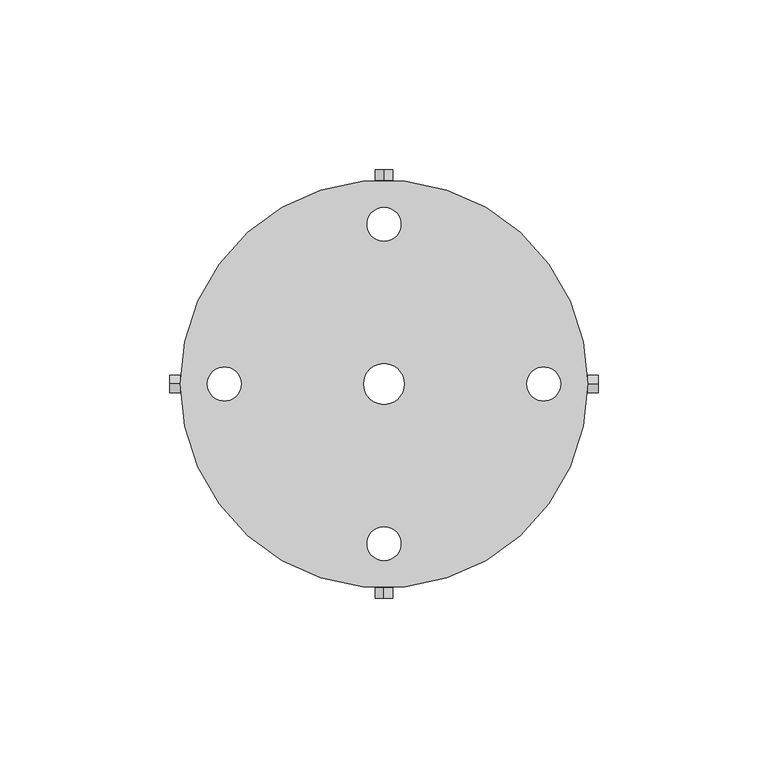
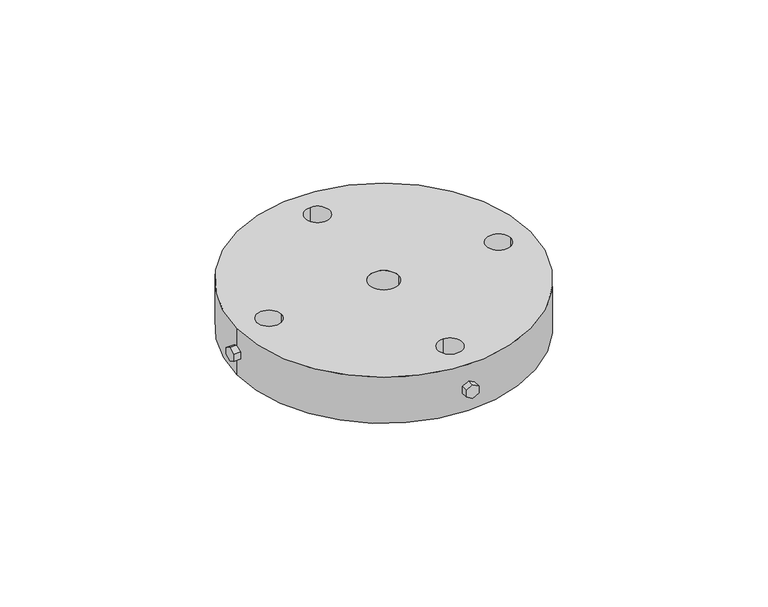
"""IFC4 building model written with IfcOpenShell, lengths in millimetres: proxy geometry, КНС_КольцоСоединительноеДляИзолированногоТокоотвода_DKC : NK3201_Алюминий."""

from ifc_helpers import new_model, si_unit, point, frame, frame_2d, origin, origin_with_axes, origin_2d, place, context, project, spatial, polyline, circle_curve, trimmed, segment, composite_curve, outline, extrude, source, transform, mapped, element, save


def security_devices_c6e7fee2(model_context):
    return source(origin(), model_context, "Body", "SweptSolid", [
        extrude(outline(composite_curve([segment(trimmed(circle_curve(origin_2d(), 60.0), [point((-60.0, 0.0))], [point((60.0, 0.0))], False, "CARTESIAN"), True, "CONTINUOUS"), segment(trimmed(circle_curve(origin_2d(), 60.0), [point((60.0, 0.0))], [point((-60.0, 0.0))], False, "CARTESIAN"), True, "CONTINUOUS")], self_intersect=False), holes=[composite_curve([segment(trimmed(circle_curve(origin_2d(), 6.0), [point((-6.0, 0.0))], [point((6.0, 0.0))], True, "CARTESIAN"), True, "CONTINUOUS"), segment(trimmed(circle_curve(origin_2d(), 6.0), [point((6.0, 0.0))], [point((-6.0, 0.0))], True, "CARTESIAN"), True, "CONTINUOUS")], self_intersect=False), composite_curve([segment(trimmed(circle_curve(frame_2d((-47.0, 0.0)), 5.0), [point((-52.0, 0.0))], [point((-42.0, 0.0))], True, "CARTESIAN"), True, "CONTINUOUS"), segment(trimmed(circle_curve(frame_2d((-47.0, 0.0)), 5.0), [point((-42.0, 0.0))], [point((-52.0, 0.0))], True, "CARTESIAN"), True, "CONTINUOUS")], self_intersect=False), composite_curve([segment(trimmed(circle_curve(frame_2d((0.0, 47.0)), 5.0), [point((0.0, 52.0))], [point((0.0, 42.0))], True, "CARTESIAN"), True, "CONTINUOUS"), segment(trimmed(circle_curve(frame_2d((0.0, 47.0)), 5.0), [point((0.0, 42.0))], [point((0.0, 52.0))], True, "CARTESIAN"), True, "CONTINUOUS")], self_intersect=False), composite_curve([segment(trimmed(circle_curve(frame_2d((0.0, -47.0)), 5.0), [point((0.0, -52.0))], [point((0.0, -42.0))], True, "CARTESIAN"), True, "CONTINUOUS"), segment(trimmed(circle_curve(frame_2d((0.0, -47.0)), 5.0), [point((0.0, -42.0))], [point((0.0, -52.0))], True, "CARTESIAN"), True, "CONTINUOUS")], self_intersect=False), composite_curve([segment(trimmed(circle_curve(frame_2d((47.0, 0.0)), 5.0), [point((52.0, 0.0))], [point((42.0, 0.0))], True, "CARTESIAN"), True, "CONTINUOUS"), segment(trimmed(circle_curve(frame_2d((47.0, 0.0)), 5.0), [point((42.0, 0.0))], [point((52.0, 0.0))], True, "CARTESIAN"), True, "CONTINUOUS")], self_intersect=False)]), origin_with_axes(), (0.0, 0.0, 1.0), 20.0),
        extrude(outline(polyline([(2.5577354, 11.4767092), (2.5577354, 8.5232908), (0.0, 7.0465815), (-2.5577354, 8.5232908), (-2.5577354, 11.4767092), (0.0, 12.9534185), (2.5577354, 11.4767092)])), frame((-63.0, 0.0, 0.0), z_axis=(1.0, 0.0, 0.0), x_axis=(0.0, 1.0, 0.0)), (0.0, 0.0, 1.0), 2.9823158),
        extrude(outline(polyline([(11.4767092, -2.5577354), (8.5232908, -2.5577354), (7.0465815, 0.0), (8.5232908, 2.5577354), (11.4767092, 2.5577354), (12.9534185, 0.0), (11.4767092, -2.5577354)])), frame((0.0, -63.0, 0.0), z_axis=(0.0, 1.0, 0.0), x_axis=(0.0, 0.0, 1.0)), (0.0, 0.0, 1.0), 2.9823158),
        extrude(outline(polyline([(-2.5577354, 11.4767092), (0.0, 12.9534185), (2.5577354, 11.4767092), (2.5577354, 8.5232908), (0.0, 7.0465815), (-2.5577354, 8.5232908), (-2.5577354, 11.4767092)])), frame((60.0176842, 0.0, 0.0), z_axis=(1.0, 0.0, 0.0), x_axis=(0.0, 1.0, 0.0)), (0.0, 0.0, 1.0), 2.9823158),
        extrude(outline(polyline([(11.4767092, 2.5577354), (12.9534185, 0.0), (11.4767092, -2.5577354), (8.5232908, -2.5577354), (7.0465815, 0.0), (8.5232908, 2.5577354), (11.4767092, 2.5577354)])), frame((0.0, 60.0176842, 0.0), z_axis=(0.0, 1.0, 0.0), x_axis=(0.0, 0.0, 1.0)), (0.0, 0.0, 1.0), 2.9823158),
    ])


if __name__ == "__main__":
    model = new_model("IFC4")
    model_context = context("Model", 3, world=origin())
    ifc_project = project(units=[si_unit("LENGTHUNIT", "METRE", prefix="MILLI")], contexts=[model_context])
    site = spatial("IfcSite", under=ifc_project)
    building = spatial("IfcBuilding", under=site)
    placement = place(None, origin())
    security_devices_shape = security_devices_c6e7fee2(model_context)
    element("IfcBuildingElementProxy", 1, Name="КНС_КольцоСоединительноеДляИзолированногоТокоотвода_DKC : NK3201_Алюминий", ObjectType="КНС_КольцоСоединительноеДляИзолированногоТокоотвода_DKC : NK3201_Алюминий", at=placement, inside=building, context=model_context, shape_type="MappedRepresentation", body=[
        mapped(security_devices_shape, transform((0.0, 0.0, 0.0), x_axis=(1.0, 0.0, 0.0), y_axis=(0.0, 1.0, 0.0), z_axis=(0.0, 0.0, 1.0))),
    ])
    save(model, "model.ifc")
